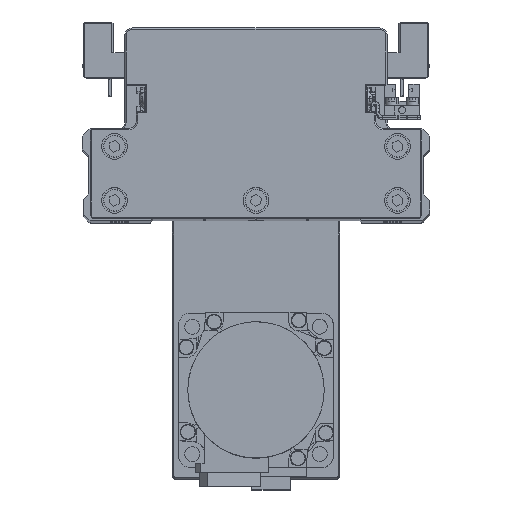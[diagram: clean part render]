
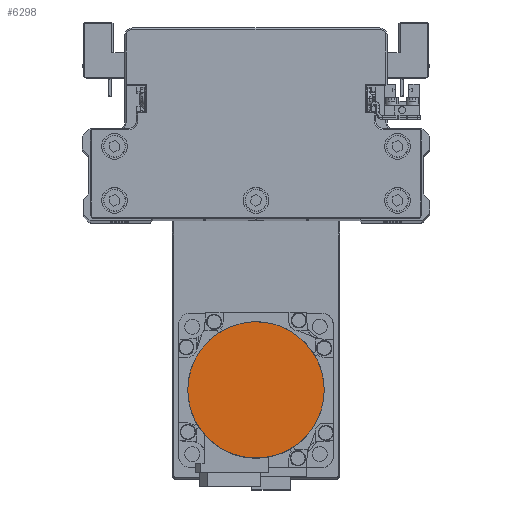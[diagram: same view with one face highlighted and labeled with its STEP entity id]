
A CAD part, top view. The second image highlights one B-rep face of the part: STEP entity #6298.
In plain terms, the highlighted planar face has unit normal (0, 0, 1) as drawn and (0, 0, -1) by its records, which use the part's own axes.
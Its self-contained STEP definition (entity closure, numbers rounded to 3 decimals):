
#70 = CARTESIAN_POINT ( 'NONE',  ( -26.5, 0., -109.7 ) ) ;
#197 = CARTESIAN_POINT ( 'NONE',  ( 21.07, -16.165, -109.7 ) ) ;
#714 = CARTESIAN_POINT ( 'NONE',  ( -26.5, 0., -109.7 ) ) ;
#718 = FACE_OUTER_BOUND ( 'NONE', #20649, .T. ) ;
#2703 = CARTESIAN_POINT ( 'NONE',  ( 25.147, 8.539, -109.7 ) ) ;
#2912 = CARTESIAN_POINT ( 'NONE',  ( -1.734, 26.5, -109.7 ) ) ;
#3026 = CARTESIAN_POINT ( 'NONE',  ( -16.165, -21.07, -109.7 ) ) ;
#3106 = CARTESIAN_POINT ( 'NONE',  ( -25.652, 6.871, -109.7 ) ) ;
#3217 = CARTESIAN_POINT ( 'NONE',  ( 16.165, -21.07, -109.7 ) ) ;
#3514 = CARTESIAN_POINT ( 'NONE',  ( -8.539, -25.147, -109.7 ) ) ;
#5752 = CARTESIAN_POINT ( 'NONE',  ( 26.5, 1.734, -109.7 ) ) ;
#5944 = CARTESIAN_POINT ( 'NONE',  ( 6.871, 25.652, -109.7 ) ) ;
#6065 = CARTESIAN_POINT ( 'NONE',  ( -21.07, -16.165, -109.7 ) ) ;
#6150 = CARTESIAN_POINT ( 'NONE',  ( -22.998, 13.28, -109.7 ) ) ;
#6266 = CARTESIAN_POINT ( 'NONE',  ( 8.539, -25.147, -109.7 ) ) ;
#6298 = ADVANCED_FACE ( 'NONE', ( #718 ), #13055, .F. ) ;
#6453 = CARTESIAN_POINT ( 'NONE',  ( 26.5, 0., -109.7 ) ) ;
#7045 = ORIENTED_EDGE ( 'NONE', *, *, #27973, .F. ) ;
#8980 = CARTESIAN_POINT ( 'NONE',  ( 13.28, 22.998, -109.7 ) ) ;
#9090 = CARTESIAN_POINT ( 'NONE',  ( -25.147, -8.539, -109.7 ) ) ;
#9170 = CARTESIAN_POINT ( 'NONE',  ( -17.512, 19.965, -109.7 ) ) ;
#9290 = CARTESIAN_POINT ( 'NONE',  ( 1.734, -26.5, -109.7 ) ) ;
#9492 = CARTESIAN_POINT ( 'NONE',  ( 25.652, -6.871, -109.7 ) ) ;
#9650 = VERTEX_POINT ( 'NONE', #11788 ) ;
#9752 = B_SPLINE_CURVE_WITH_KNOTS ( 'NONE', 3,
 ( #33467, #5752, #18082, #30421, #2703, #15049, #27392, #39763, #12029, #24348, #36715, #8980, #21311, #33653, #5944, #18280, #30623, #2912, #15254, #27590, #39953, #12214, #24527, #36901, #9170, #21516, #33857, #6150, #18484, #30819, #3106, #15444, #27775, #70 ),
 .UNSPECIFIED., .F., .F.,
 ( 4, 2, 2, 2, 2, 2, 2, 2, 2, 2, 2, 2, 2, 2, 2, 2, 4 ),
 ( 0., 0.062, 0.125, 0.187, 0.25, 0.312, 0.375, 0.437, 0.5, 0.562, 0.625, 0.687, 0.75, 0.813, 0.875, 0.938, 1. ),
 .UNSPECIFIED. ) ;
#10030 = DIRECTION ( 'NONE',  ( 1., 0., 0. ) ) ;
#11788 = CARTESIAN_POINT ( 'NONE',  ( 26.5, 0., -109.7 ) ) ;
#12029 = CARTESIAN_POINT ( 'NONE',  ( 19.965, 17.512, -109.7 ) ) ;
#12143 = CARTESIAN_POINT ( 'NONE',  ( -26.5, -1.734, -109.7 ) ) ;
#12214 = CARTESIAN_POINT ( 'NONE',  ( -11.744, 23.819, -109.7 ) ) ;
#12326 = CARTESIAN_POINT ( 'NONE',  ( -6.871, -25.652, -109.7 ) ) ;
#12530 = CARTESIAN_POINT ( 'NONE',  ( 22.998, -13.28, -109.7 ) ) ;
#13055 = PLANE ( 'NONE',  #30110 ) ;
#13494 = B_SPLINE_CURVE_WITH_KNOTS ( 'NONE', 3,
 ( #39873, #12143, #24460, #36821, #9090, #21430, #33777, #6065, #18404, #30743, #3026, #15370, #27700, #3514, #12326, #24647, #37024, #9290, #21636, #33979, #6266, #18602, #30934, #3217, #15560, #27890, #197, #12530, #24858, #37231, #9492, #21834, #34170, #6453 ),
 .UNSPECIFIED., .F., .F.,
 ( 4, 2, 2, 2, 2, 2, 2, 2, 2, 2, 2, 2, 2, 2, 2, 2, 4 ),
 ( 0., 0.063, 0.125, 0.188, 0.25, 0.312, 0.375, 0.437, 0.5, 0.562, 0.625, 0.687, 0.75, 0.813, 0.875, 0.938, 1. ),
 .UNSPECIFIED. ) ;
#15049 = CARTESIAN_POINT ( 'NONE',  ( 23.819, 11.744, -109.7 ) ) ;
#15254 = CARTESIAN_POINT ( 'NONE',  ( -3.469, 26.329, -109.7 ) ) ;
#15370 = CARTESIAN_POINT ( 'NONE',  ( -13.28, -22.998, -109.7 ) ) ;
#15444 = CARTESIAN_POINT ( 'NONE',  ( -26.329, 3.469, -109.7 ) ) ;
#15560 = CARTESIAN_POINT ( 'NONE',  ( 17.512, -19.965, -109.7 ) ) ;
#16382 = ORIENTED_EDGE ( 'NONE', *, *, #21765, .F. ) ;
#18082 = CARTESIAN_POINT ( 'NONE',  ( 26.329, 3.469, -109.7 ) ) ;
#18280 = CARTESIAN_POINT ( 'NONE',  ( 3.469, 26.329, -109.7 ) ) ;
#18404 = CARTESIAN_POINT ( 'NONE',  ( -19.965, -17.512, -109.7 ) ) ;
#18484 = CARTESIAN_POINT ( 'NONE',  ( -23.819, 11.744, -109.7 ) ) ;
#18602 = CARTESIAN_POINT ( 'NONE',  ( 11.744, -23.819, -109.7 ) ) ;
#20649 = EDGE_LOOP ( 'NONE', ( #16382, #7045 ) ) ;
#21311 = CARTESIAN_POINT ( 'NONE',  ( 11.744, 23.819, -109.7 ) ) ;
#21430 = CARTESIAN_POINT ( 'NONE',  ( -23.819, -11.744, -109.7 ) ) ;
#21516 = CARTESIAN_POINT ( 'NONE',  ( -19.965, 17.512, -109.7 ) ) ;
#21636 = CARTESIAN_POINT ( 'NONE',  ( 3.469, -26.329, -109.7 ) ) ;
#21765 = EDGE_CURVE ( 'NONE', #9650, #39212, #9752, .T. ) ;
#21834 = CARTESIAN_POINT ( 'NONE',  ( 26.329, -3.469, -109.7 ) ) ;
#24348 = CARTESIAN_POINT ( 'NONE',  ( 17.512, 19.965, -109.7 ) ) ;
#24460 = CARTESIAN_POINT ( 'NONE',  ( -26.329, -3.469, -109.7 ) ) ;
#24527 = CARTESIAN_POINT ( 'NONE',  ( -13.28, 22.998, -109.7 ) ) ;
#24647 = CARTESIAN_POINT ( 'NONE',  ( -3.469, -26.329, -109.7 ) ) ;
#24858 = CARTESIAN_POINT ( 'NONE',  ( 23.819, -11.744, -109.7 ) ) ;
#25387 = CARTESIAN_POINT ( 'NONE',  ( 0., 0., -109.7 ) ) ;
#27392 = CARTESIAN_POINT ( 'NONE',  ( 22.998, 13.28, -109.7 ) ) ;
#27590 = CARTESIAN_POINT ( 'NONE',  ( -6.871, 25.652, -109.7 ) ) ;
#27700 = CARTESIAN_POINT ( 'NONE',  ( -11.744, -23.819, -109.7 ) ) ;
#27775 = CARTESIAN_POINT ( 'NONE',  ( -26.5, 1.734, -109.7 ) ) ;
#27890 = CARTESIAN_POINT ( 'NONE',  ( 19.965, -17.512, -109.7 ) ) ;
#27973 = EDGE_CURVE ( 'NONE', #39212, #9650, #13494, .T. ) ;
#30110 = AXIS2_PLACEMENT_3D ( 'NONE', #25387, #37747, #10030 ) ;
#30421 = CARTESIAN_POINT ( 'NONE',  ( 25.652, 6.871, -109.7 ) ) ;
#30623 = CARTESIAN_POINT ( 'NONE',  ( 1.734, 26.5, -109.7 ) ) ;
#30743 = CARTESIAN_POINT ( 'NONE',  ( -17.512, -19.965, -109.7 ) ) ;
#30819 = CARTESIAN_POINT ( 'NONE',  ( -25.147, 8.539, -109.7 ) ) ;
#30934 = CARTESIAN_POINT ( 'NONE',  ( 13.28, -22.998, -109.7 ) ) ;
#33467 = CARTESIAN_POINT ( 'NONE',  ( 26.5, 0., -109.7 ) ) ;
#33653 = CARTESIAN_POINT ( 'NONE',  ( 8.539, 25.147, -109.7 ) ) ;
#33777 = CARTESIAN_POINT ( 'NONE',  ( -22.998, -13.28, -109.7 ) ) ;
#33857 = CARTESIAN_POINT ( 'NONE',  ( -21.07, 16.165, -109.7 ) ) ;
#33979 = CARTESIAN_POINT ( 'NONE',  ( 6.871, -25.652, -109.7 ) ) ;
#34170 = CARTESIAN_POINT ( 'NONE',  ( 26.5, -1.734, -109.7 ) ) ;
#36715 = CARTESIAN_POINT ( 'NONE',  ( 16.165, 21.07, -109.7 ) ) ;
#36821 = CARTESIAN_POINT ( 'NONE',  ( -25.652, -6.871, -109.7 ) ) ;
#36901 = CARTESIAN_POINT ( 'NONE',  ( -16.165, 21.07, -109.7 ) ) ;
#37024 = CARTESIAN_POINT ( 'NONE',  ( -1.734, -26.5, -109.7 ) ) ;
#37231 = CARTESIAN_POINT ( 'NONE',  ( 25.147, -8.539, -109.7 ) ) ;
#37747 = DIRECTION ( 'NONE',  ( 0., 0., 1. ) ) ;
#39212 = VERTEX_POINT ( 'NONE', #714 ) ;
#39763 = CARTESIAN_POINT ( 'NONE',  ( 21.07, 16.165, -109.7 ) ) ;
#39873 = CARTESIAN_POINT ( 'NONE',  ( -26.5, 0., -109.7 ) ) ;
#39953 = CARTESIAN_POINT ( 'NONE',  ( -8.539, 25.147, -109.7 ) ) ;
